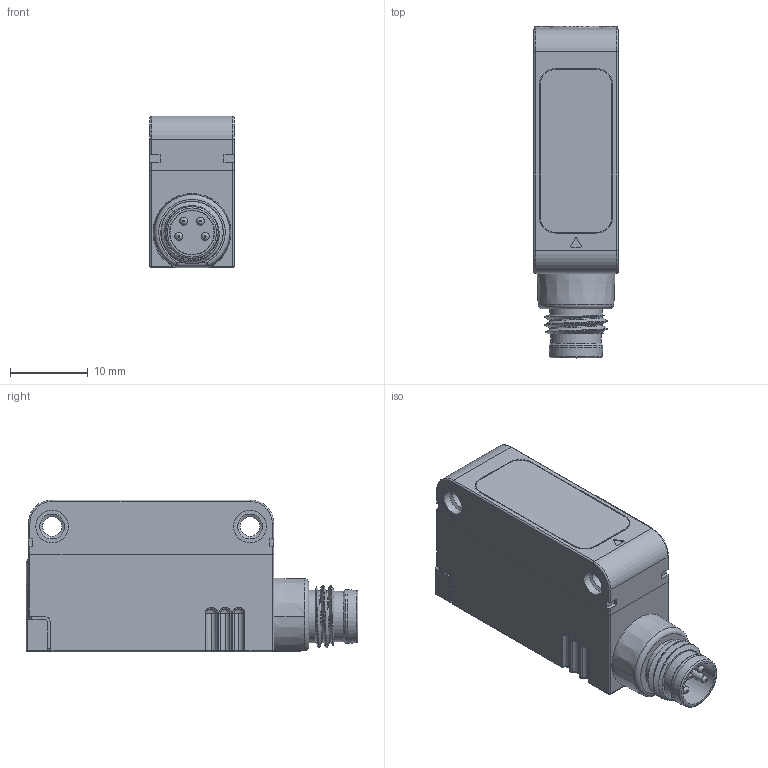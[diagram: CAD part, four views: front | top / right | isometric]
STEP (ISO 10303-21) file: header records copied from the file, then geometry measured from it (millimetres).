
FILE_DESCRIPTION(/* description */ (''),/* implementation_level */ '2;1');
FILE_NAME(/* name */ 'DSD-1160.stp',/* time_stamp */ '2024-06-25T11:40:06+02:00',/* author */ (''),/* organization */ (''),/* preprocessor_version */ 'ST-DEVELOPER v16.701',/* originating_system */ 'SIEMENS PLM Software NX 1946',/* authorisation */ '');
FILE_SCHEMA (('AUTOMOTIVE_DESIGN { 1 0 10303 214 3 1 1 1 }'));
Products named in the file (3): AP061503_00-Bottom Cover per DSD 1160; AP061285_00-Optic Box Group per DSD; AS008632_00-S3N - DSD
Assembly tree (2 placements, depth 2):
  AS008632_00-S3N - DSD
    AP061285_00-Optic Box Group per DSD
    AP061503_00-Bottom Cover per DSD 1160
Bounding box: 10.82 x 42.6 x 19.5 mm (x, y, z)
Volume: 7003.3 mm3; surface area: 5832.5 mm2
Topology: 13 solids, 28 shells, 2228 faces, 6129 edges, 4011 vertices
Faces by surface type: plane 1171, cylinder 544, extrusion 309, torus 69, bspline 67, sphere 38, cone 30
Full cylindrical faces by diameter (mm): 0.5 x2, 0.6 x4, 1 x16, 2.5 x2, 3.2 x4, 3.454 x1, 4.2 x8, 4.244 x1, 4.5 x2, 5.65 x2, 5.75 x1, 6.5 x1, 6.75 x6, 6.9 x1
Entity records: 77810 total; most frequent: CARTESIAN_POINT 22816, ORIENTED_EDGE 11840, DIRECTION 10243, EDGE_CURVE 5969, VECTOR 4133, VERTEX_POINT 3959, LINE 3824, AXIS2_PLACEMENT_3D 3055
